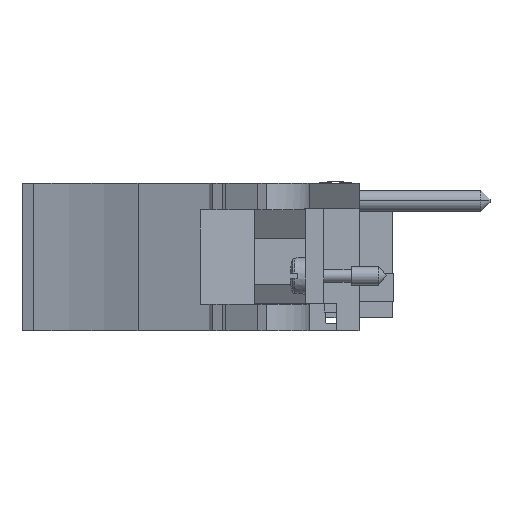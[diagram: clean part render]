
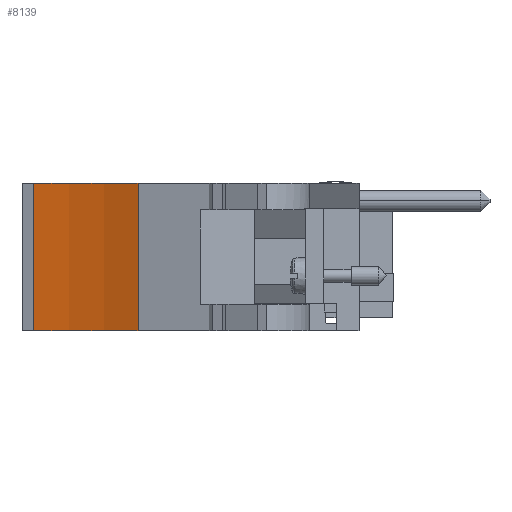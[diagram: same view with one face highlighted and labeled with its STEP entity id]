
A CAD part, front view. The second image highlights one B-rep face of the part: STEP entity #8139.
In plain terms, the highlighted cylindrical face has radius 51.46 mm (diameter 102.919 mm), a partial arc.
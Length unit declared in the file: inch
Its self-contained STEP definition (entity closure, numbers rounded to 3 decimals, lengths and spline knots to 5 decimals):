
#2983=DIRECTION('',(0.,0.,1.));
#2984=VECTOR('',#2983,0.788);
#2985=CARTESIAN_POINT('',(-5.16903,-4.12655,
-0.095));
#2986=LINE('',#2985,#2984);
#3044=CARTESIAN_POINT('',(-6.05033,-5.95079,-0.095));
#3045=DIRECTION('',(0.,0.,1.));
#3046=DIRECTION('',(0.435,0.9,0.));
#3047=AXIS2_PLACEMENT_3D('',#3044,#3045,#3046);
#3435=CARTESIAN_POINT('',(-6.05033,-5.95079,0.693));
#3436=DIRECTION('',(0.,0.,1.));
#3437=DIRECTION('',(0.435,0.9,0.));
#3438=AXIS2_PLACEMENT_3D('',#3435,#3436,#3437);
#3751=DIRECTION('',(0.,0.,1.));
#3752=VECTOR('',#3751,0.788);
#3753=CARTESIAN_POINT('',(-5.727,-3.95079,-0.095));
#3754=LINE('',#3753,#3752);
#7205=CARTESIAN_POINT('',(-5.16903,-4.12655,
-0.095));
#7206=CARTESIAN_POINT('',(-5.727,-3.95079,-0.095));
#7207=VERTEX_POINT('',#7205);
#7208=VERTEX_POINT('',#7206);
#7209=CARTESIAN_POINT('',(-5.16903,-4.12655,
0.693));
#7210=CARTESIAN_POINT('',(-5.727,-3.95079,0.693));
#7211=VERTEX_POINT('',#7209);
#7212=VERTEX_POINT('',#7210);
#8125=CARTESIAN_POINT('',(-6.05033,-5.95079,0.693));
#8126=DIRECTION('',(0.,0.,1.));
#8127=DIRECTION('',(0.,1.,0.));
#8128=AXIS2_PLACEMENT_3D('',#8125,#8126,#8127);
#8129=CYLINDRICAL_SURFACE('',#8128,2.02597);
#8131=ORIENTED_EDGE('',*,*,#8130,.T.);
#8133=ORIENTED_EDGE('',*,*,#8132,.T.);
#8135=ORIENTED_EDGE('',*,*,#8134,.F.);
#8136=ORIENTED_EDGE('',*,*,#8108,.F.);
#8137=EDGE_LOOP('',(#8131,#8133,#8135,#8136));
#8138=FACE_OUTER_BOUND('',#8137,.F.);
#8139=ADVANCED_FACE('',(#8138),#8129,.F.);
#3048=CIRCLE('',#3047,2.02597);
#3439=CIRCLE('',#3438,2.02597);
#8108=EDGE_CURVE('',#7207,#7211,#2986,.T.);
#8130=EDGE_CURVE('',#7207,#7208,#3048,.T.);
#8132=EDGE_CURVE('',#7208,#7212,#3754,.T.);
#8134=EDGE_CURVE('',#7211,#7212,#3439,.T.);
